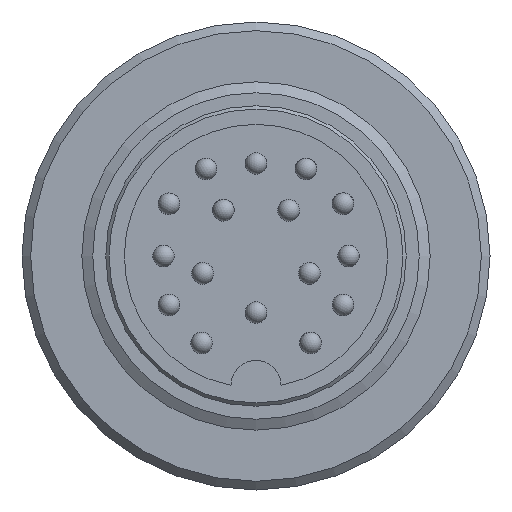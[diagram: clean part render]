
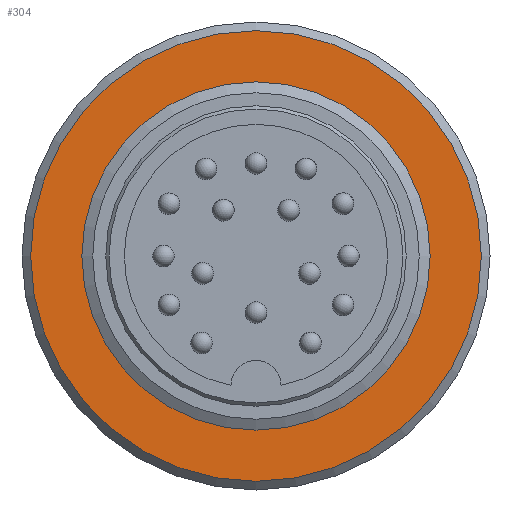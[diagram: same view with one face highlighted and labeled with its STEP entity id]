
A CAD part, left-side view. The second image highlights one B-rep face of the part: STEP entity #304.
In plain terms, the highlighted planar face has unit normal (-1, 0, 0).
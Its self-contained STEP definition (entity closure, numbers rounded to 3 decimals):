
#146=PLANE('',#1432);
#199=FACE_BOUND('',#504,.T.);
#200=FACE_BOUND('',#505,.T.);
#304=ADVANCED_FACE('',(#199,#200),#146,.F.);
#504=EDGE_LOOP('',(#878));
#505=EDGE_LOOP('',(#879));
#878=ORIENTED_EDGE('',*,*,#1204,.T.);
#879=ORIENTED_EDGE('',*,*,#1212,.T.);
#1068=VERTEX_POINT('',#2134);
#1076=VERTEX_POINT('',#2159);
#1204=EDGE_CURVE('',#1068,#1068,#1302,.T.);
#1212=EDGE_CURVE('',#1076,#1076,#1310,.T.);
#1302=CIRCLE('',#1414,10.35);
#1310=CIRCLE('',#1431,7.5);
#1414=AXIS2_PLACEMENT_3D('',#2133,#1693,#1694);
#1431=AXIS2_PLACEMENT_3D('',#2158,#1727,#1728);
#1432=AXIS2_PLACEMENT_3D('',#2160,#1729,#1730);
#1693=DIRECTION('',(-1.,0.,0.));
#1694=DIRECTION('',(0.,0.,-1.));
#1727=DIRECTION('',(1.,0.,0.));
#1728=DIRECTION('',(0.,0.,-1.));
#1729=DIRECTION('',(1.,0.,0.));
#1730=DIRECTION('',(0.,0.,-1.));
#2133=CARTESIAN_POINT('',(8.,0.,0.));
#2134=CARTESIAN_POINT('',(8.,0.,-10.35));
#2158=CARTESIAN_POINT('',(8.,0.,0.));
#2159=CARTESIAN_POINT('',(8.,0.,-7.5));
#2160=CARTESIAN_POINT('',(8.,0.,0.));
